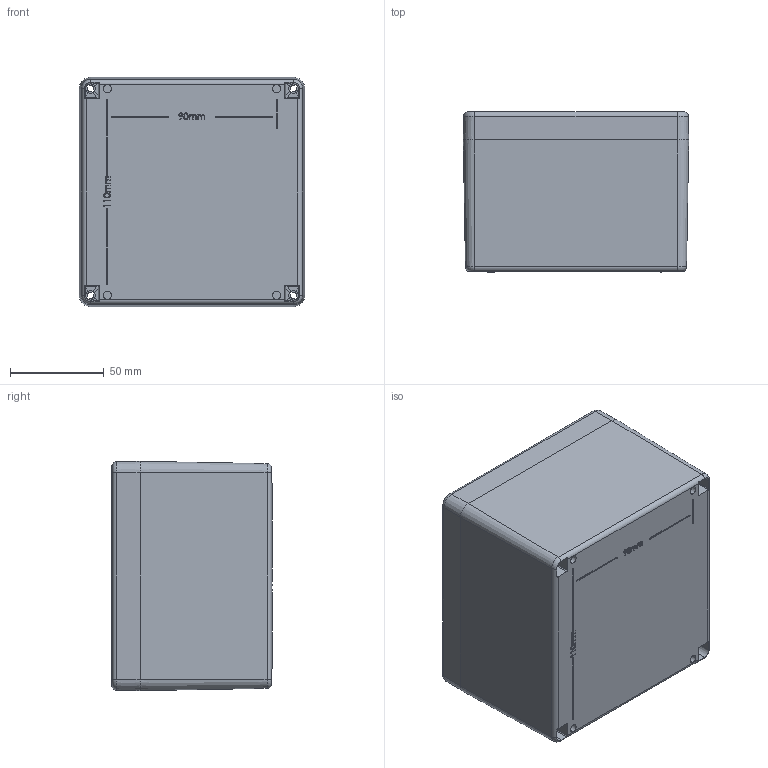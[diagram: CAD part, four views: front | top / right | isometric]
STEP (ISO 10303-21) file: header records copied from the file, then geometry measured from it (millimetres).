
FILE_DESCRIPTION (( 'STEP AP214' ), '1' );
FILE_NAME ('ZP 10 asm.STEP', '2014-10-27T11:35:56', ( '' ), ( '' ), 'SwSTEP 2.0', 'SolidWorks 2014', '' );
FILE_SCHEMA (( 'AUTOMOTIVE_DESIGN' ));
Length unit declared in the file: millimetre
Products named in the file (3): ZP 10 asm; ZP 10 Base; ZP 10 lid
Assembly tree (2 placements, depth 2):
  ZP 10 asm
    ZP 10 Base
    ZP 10 lid
Bounding box: 120 x 85.25 x 122 mm (x, y, z)
Volume: 198954 mm3; surface area: 158408.4 mm2
Topology: 2 solids, 2 shells, 771 faces, 2061 edges, 1332 vertices
Faces by surface type: plane 447, cone 176, cylinder 77, bspline 63, torus 8
Entity records: 27783 total; most frequent: CARTESIAN_POINT 8612, ORIENTED_EDGE 4082, DIRECTION 3769, EDGE_CURVE 2041, VECTOR 1359, LINE 1359, VERTEX_POINT 1332, AXIS2_PLACEMENT_3D 1205
